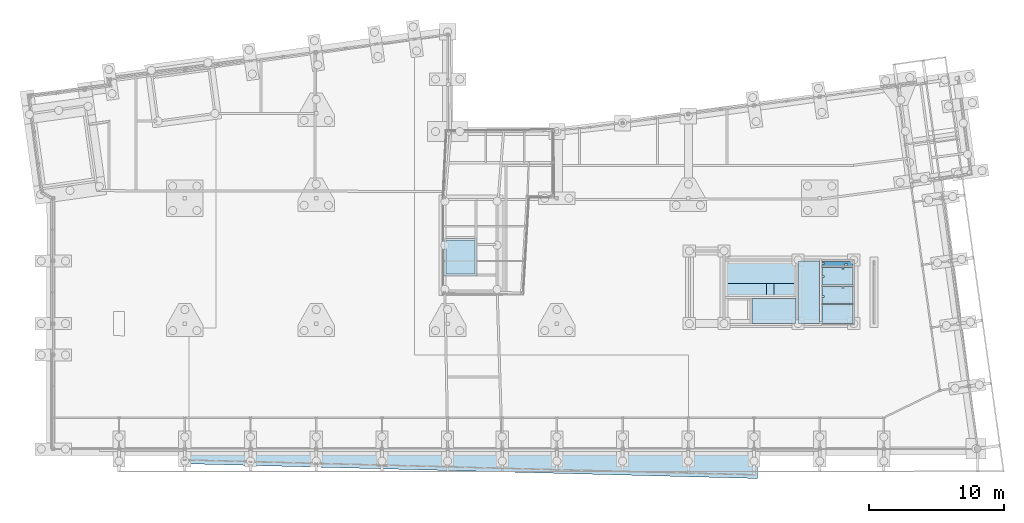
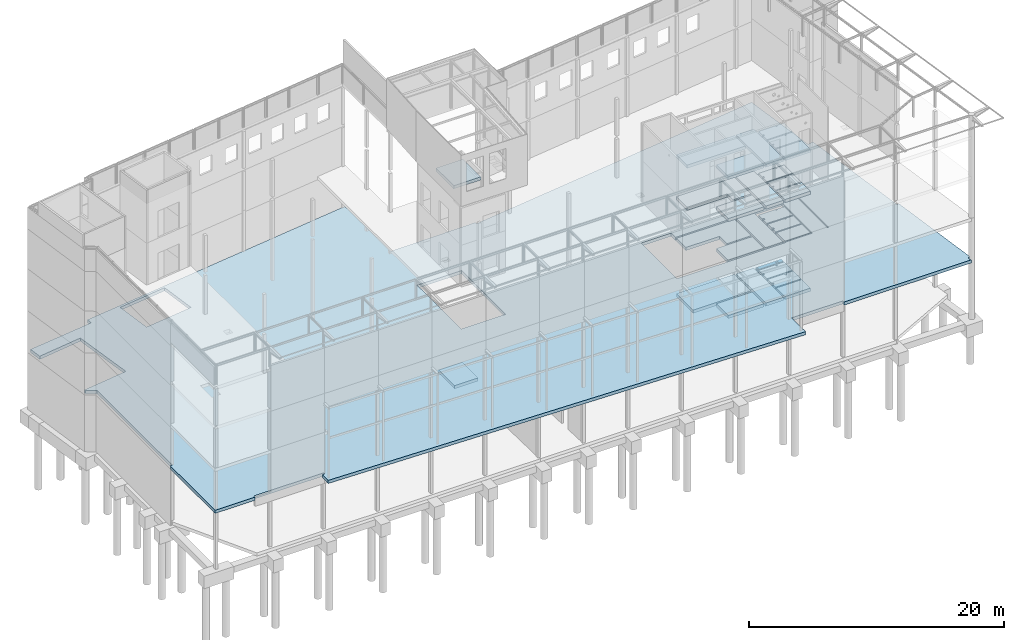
# One storey, part 67 of 82: 28 slabs.
"""IFC2X3 building model written with IfcOpenShell, lengths in millimetres."""

from ifc_helpers import new_model, si_unit, frame, frame_2d, origin_with_axes, place, context, subcontext, project, spatial, polyline, rectangle, circle, outline, extrude, boolean, material, layer, layer_set, layer_usage, type_object, element, save


model = new_model("IFC2X3")

# Units and contexts
model_context = context("Model", 3, precision=1e-05, world=origin_with_axes())
body_context = subcontext(model_context, "Body", "Model", "MODEL_VIEW")
ifc_project = project(units=[si_unit("LENGTHUNIT", "METRE", prefix="MILLI"), si_unit("AREAUNIT", "SQUARE_METRE"), si_unit("VOLUMEUNIT", "CUBIC_METRE"), si_unit("MASSUNIT", "GRAM", prefix="KILO"), si_unit("TIMEUNIT", "SECOND"), si_unit("PLANEANGLEUNIT", "RADIAN"), si_unit("SOLIDANGLEUNIT", "STERADIAN"), si_unit("THERMODYNAMICTEMPERATUREUNIT", "DEGREE_CELSIUS"), si_unit("LUMINOUSINTENSITYUNIT", "LUMEN")], contexts=[model_context])

# Site, building, storey
site_placement = place(None, origin_with_axes())
site = spatial("IfcSite", under=ifc_project, at=site_placement, Name="Undefined", CompositionType="ELEMENT")
building_placement = place(site_placement, origin_with_axes())
building = spatial("IfcBuilding", under=site, at=building_placement, Name="Undefined", CompositionType="ELEMENT")
storey_placement = place(building_placement, origin_with_axes())
storey = spatial("IfcBuildingStorey", under=building, at=storey_placement, Name="Undefined", CompositionType="ELEMENT", Elevation=0.0)

# Slabs
ifc_material = material(Name="CONCRETE/C30/37")
ifc_layer = layer(ifc_material, 300.0)
ifc_layer_set = layer_set([ifc_layer], Name="Floor: Insitu CONCRETE/C30/37")
ifc_layer_usage_1 = layer_usage(ifc_layer_set, "AXIS3", "POSITIVE", -150.0)
slab_type_1 = type_object("IfcSlabType", Name="300*2445", PredefinedType="NOTDEFINED")
slab_1_placement = place(storey_placement, frame((31418.7636301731, 12815.0686917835, 18180.0), z_axis=(0.0, -6.50000002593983e-08, -0.999999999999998), x_axis=(-1.0, 0.0, 0.0)))
element("IfcSlab", 1, at=slab_1_placement, inside=storey, type_object=slab_type_1, material=ifc_layer_usage_1, Name="DALLE", ObjectType="300*2445", PredefinedType="FLOOR", context=body_context, shape_type="SweptSolid", body=[
    extrude(outline(polyline([(5.17284206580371e-08, 4.49290382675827e-10), (2445.00000000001, 2.19552021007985e-09), (2444.99731445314, 2800.00024414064), (0.000110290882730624, 2799.99975585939), (5.17284206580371e-08, 4.49290382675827e-10)])), frame((-3.63806012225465e-12, 9.115763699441e-13, -150.0), z_axis=(0.0, 0.0, 1.0), x_axis=(1.0, 0.0, 0.0)), (0.0, 0.0, 1.0), 300.0),
])
ifc_layer_usage_2 = layer_usage(ifc_layer_set, "AXIS3", "POSITIVE", -150.0)
slab_type_2 = type_object("IfcSlabType", Name="300*1683", PredefinedType="NOTDEFINED")
slab_2_placement = place(storey_placement, frame((55096.3765565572, 13950.0000000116, 13180.0), z_axis=(0.0, 0.0, 1.0), x_axis=(-1.0, 0.0, 0.0)))
element("IfcSlab", 2, at=slab_2_placement, inside=storey, type_object=slab_type_2, material=ifc_layer_usage_2, Name="DALLE", ObjectType="300*1683", PredefinedType="FLOOR", context=body_context, shape_type="SweptSolid", body=[
    extrude(outline(polyline([(5.17284206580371e-08, 4.49290382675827e-10), (5271.37646484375, -1.20053300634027e-10), (5271.37744140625, 1682.5341796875), (2.41072120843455e-06, 1682.5341796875), (5.17284206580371e-08, 4.49290382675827e-10)])), frame((-3.63806012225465e-12, 9.115763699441e-13, -150.0), z_axis=(0.0, 0.0, 1.0), x_axis=(1.0, 0.0, 0.0)), (0.0, 0.0, 1.0), 300.0),
])
ifc_layer_usage_3 = layer_usage(ifc_layer_set, "AXIS3", "POSITIVE", -150.0)
slab_type_3 = type_object("IfcSlabType", Name="300*1374", PredefinedType="NOTDEFINED")
slab_3_placement = place(storey_placement, frame((59325.0016586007, 10699.4681967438, 13180.0), z_axis=(0.0, 0.0, 1.0), x_axis=(-1.0, 0.0, 0.0)))
element("IfcSlab", 3, at=slab_3_placement, inside=storey, type_object=slab_type_3, material=ifc_layer_usage_3, Name="DALLE", ObjectType="300*1374", PredefinedType="FLOOR", context=body_context, shape_type="SweptSolid", body=[
    extrude(outline(polyline([(5.17284206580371e-08, 4.49290382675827e-10), (2325.00170898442, -1.71530700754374e-09), (2325.00146483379, 1374.46838379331), (0.00218081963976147, 1374.46826171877), (5.17284206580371e-08, 4.49290382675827e-10)])), frame((-3.63806012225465e-12, 9.115763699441e-13, -150.0), z_axis=(0.0, 0.0, 1.0), x_axis=(1.0, 0.0, 0.0)), (0.0, 0.0, 1.0), 300.0),
])
ifc_layer_usage_4 = layer_usage(ifc_layer_set, "AXIS3", "POSITIVE", -150.0)
slab_4_placement = place(storey_placement, frame((59325.001658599, 10699.4681967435, 9155.0), z_axis=(0.0, 0.0, 1.0), x_axis=(-1.0, 0.0, 0.0)))
element("IfcSlab", 4, at=slab_4_placement, inside=storey, type_object=slab_type_3, material=ifc_layer_usage_4, Name="DALLE", ObjectType="300*1374", PredefinedType="FLOOR", context=body_context, shape_type="SweptSolid", body=[
    extrude(outline(polyline([(5.17284206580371e-08, 4.49290382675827e-10), (2325.00170898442, -1.71530700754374e-09), (2325.00146483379, 1374.46838379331), (0.00218081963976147, 1374.46826171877), (5.17284206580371e-08, 4.49290382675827e-10)])), frame((-3.63806012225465e-12, 9.115763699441e-13, -150.0), z_axis=(0.0, 0.0, 1.0), x_axis=(1.0, 0.0, 0.0)), (0.0, 0.0, 1.0), 300.0),
])
ifc_layer_usage_5 = layer_usage(ifc_layer_set, "AXIS3", "POSITIVE", -150.0)
slab_5_placement = place(storey_placement, frame((59325.0016585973, 10699.4681967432, 5150.0), z_axis=(0.0, 0.0, 1.0), x_axis=(-1.0, 0.0, 0.0)))
element("IfcSlab", 5, at=slab_5_placement, inside=storey, type_object=slab_type_3, material=ifc_layer_usage_5, Name="DALLE", ObjectType="300*1374", PredefinedType="FLOOR", context=body_context, shape_type="SweptSolid", body=[
    extrude(outline(polyline([(5.17284206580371e-08, 4.49290382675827e-10), (2325.00170898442, -1.71530700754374e-09), (2325.00146483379, 1374.46838379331), (0.00218081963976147, 1374.46826171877), (5.17284206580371e-08, 4.49290382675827e-10)])), frame((-3.63806012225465e-12, 9.115763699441e-13, -150.0), z_axis=(0.0, 0.0, 1.0), x_axis=(1.0, 0.0, 0.0)), (0.0, 0.0, 1.0), 300.0),
])
ifc_layer_usage_6 = layer_usage(ifc_layer_set, "AXIS3", "POSITIVE", -150.0)
slab_6_placement = place(storey_placement, frame((59325.0016585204, 10699.4681966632, -150.0), z_axis=(0.0, 0.0, 1.0), x_axis=(-1.0, 0.0, 0.0)))
element("IfcSlab", 6, at=slab_6_placement, inside=storey, type_object=slab_type_3, material=ifc_layer_usage_6, Name="DALLE", ObjectType="300*1374", PredefinedType="FLOOR", context=body_context, shape_type="SweptSolid", body=[
    extrude(outline(polyline([(5.17284206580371e-08, 4.49290382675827e-10), (2325.00170898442, -1.71530700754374e-09), (2325.00219726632, 1374.46826174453), (0.00271947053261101, 1374.46826171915), (5.17284206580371e-08, 4.49290382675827e-10)])), frame((-3.63806012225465e-12, 9.115763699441e-13, -150.0), z_axis=(0.0, 0.0, 1.0), x_axis=(1.0, 0.0, 0.0)), (0.0, 0.0, 1.0), 300.0),
])
ifc_layer_usage_7 = layer_usage(ifc_layer_set, "AXIS3", "POSITIVE", -150.0)
slab_type_4 = type_object("IfcSlabType", Name="300*1251", PredefinedType="NOTDEFINED")
slab_7_placement = place(storey_placement, frame((59325.001658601, 12049.9997748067, 13180.0), z_axis=(0.0, 0.0, 1.0), x_axis=(-1.0, 0.0, 0.0)))
element("IfcSlab", 7, at=slab_7_placement, inside=storey, type_object=slab_type_4, material=ifc_layer_usage_7, Name="DALLE", ObjectType="300*1251", PredefinedType="FLOOR", context=body_context, shape_type="CSG", body=[
    boolean("DIFFERENCE", boolean("DIFFERENCE", extrude(outline(polyline([(5.17284206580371e-08, 4.49290382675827e-10), (2325.00170898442, -1.71530700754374e-09), (2325.00146484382, 1250.53161623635), (0.00216770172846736, 1250.53161621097), (5.17284206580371e-08, 4.49290382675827e-10)])), frame((-3.63806012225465e-12, 9.115763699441e-13, -150.0), z_axis=(0.0, 0.0, 1.0), x_axis=(1.0, 0.0, 0.0)), (0.0, 0.0, 1.0), 300.0), extrude(rectangle(XDim=150.0, YDim=150.0, at=frame_2d((5.17284206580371e-08, 4.49290382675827e-10), x_axis=(1.0, 0.0))), frame((2250.00283816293, 739.000248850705, 160.0), z_axis=(0.0, -6.50000002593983e-08, -0.999999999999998), x_axis=(-1.0, 0.0, 0.0)), (0.0, 0.0, 1.0), 320.0)), extrude(rectangle(XDim=100.0, YDim=100.0, at=frame_2d((5.17284206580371e-08, 4.49290382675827e-10), x_axis=(1.0, 0.0))), frame((749.995518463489, 63.2879947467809, 160.0), z_axis=(0.0, -6.50000002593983e-08, -0.999999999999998), x_axis=(-1.0, 0.0, 0.0)), (0.0, 0.0, 1.0), 320.0)),
])
ifc_layer_usage_8 = layer_usage(ifc_layer_set, "AXIS3", "POSITIVE", -150.0)
slab_8_placement = place(storey_placement, frame((59325.0016585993, 12049.9997748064, 9155.0), z_axis=(0.0, 0.0, 1.0), x_axis=(-1.0, 0.0, 0.0)))
element("IfcSlab", 8, at=slab_8_placement, inside=storey, type_object=slab_type_4, material=ifc_layer_usage_8, Name="DALLE", ObjectType="300*1251", PredefinedType="FLOOR", context=body_context, shape_type="CSG", body=[
    boolean("DIFFERENCE", boolean("DIFFERENCE", extrude(outline(polyline([(5.17284206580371e-08, 4.49290382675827e-10), (2325.00170898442, -1.71530700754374e-09), (2325.00146484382, 1250.53161623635), (0.00216770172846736, 1250.53161621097), (5.17284206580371e-08, 4.49290382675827e-10)])), frame((-3.63806012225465e-12, 9.115763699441e-13, -150.0), z_axis=(0.0, 0.0, 1.0), x_axis=(1.0, 0.0, 0.0)), (0.0, 0.0, 1.0), 300.0), extrude(rectangle(XDim=150.0, YDim=150.0, at=frame_2d((5.17284206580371e-08, 4.49290382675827e-10), x_axis=(1.0, 0.0))), frame((2250.00283816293, 739.000248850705, 160.0), z_axis=(0.0, -6.50000002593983e-08, -0.999999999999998), x_axis=(-1.0, 0.0, 0.0)), (0.0, 0.0, 1.0), 320.0)), extrude(rectangle(XDim=100.0, YDim=100.0, at=frame_2d((5.17284206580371e-08, 4.49290382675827e-10), x_axis=(1.0, 0.0))), frame((749.995518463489, 63.2879947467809, 160.0), z_axis=(0.0, -6.50000002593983e-08, -0.999999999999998), x_axis=(-1.0, 0.0, 0.0)), (0.0, 0.0, 1.0), 320.0)),
])
ifc_layer_usage_9 = layer_usage(ifc_layer_set, "AXIS3", "POSITIVE", -150.0)
slab_9_placement = place(storey_placement, frame((59325.0016585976, 12049.9997748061, 5150.0), z_axis=(0.0, 0.0, 1.0), x_axis=(-1.0, 0.0, 0.0)))
element("IfcSlab", 9, at=slab_9_placement, inside=storey, type_object=slab_type_4, material=ifc_layer_usage_9, Name="DALLE", ObjectType="300*1251", PredefinedType="FLOOR", context=body_context, shape_type="CSG", body=[
    boolean("DIFFERENCE", boolean("DIFFERENCE", extrude(outline(polyline([(5.17284206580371e-08, 4.49290382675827e-10), (2325.00170898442, -1.71530700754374e-09), (2325.00146484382, 1250.53161623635), (0.00216770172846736, 1250.53161621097), (5.17284206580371e-08, 4.49290382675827e-10)])), frame((-3.63806012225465e-12, 9.115763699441e-13, -150.0), z_axis=(0.0, 0.0, 1.0), x_axis=(1.0, 0.0, 0.0)), (0.0, 0.0, 1.0), 300.0), extrude(rectangle(XDim=150.0, YDim=150.0, at=frame_2d((5.17284206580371e-08, 4.49290382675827e-10), x_axis=(1.0, 0.0))), frame((2250.00164723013, 739.000249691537, 159.999999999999), z_axis=(0.0, -6.50000002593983e-08, -0.999999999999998), x_axis=(-1.0, 0.0, 0.0)), (0.0, 0.0, 1.0), 320.0)), extrude(rectangle(XDim=100.0, YDim=100.0, at=frame_2d((5.17284206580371e-08, 4.49290382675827e-10), x_axis=(1.0, 0.0))), frame((749.995518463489, 63.2879947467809, 160.0), z_axis=(0.0, -6.50000002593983e-08, -0.999999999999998), x_axis=(-1.0, 0.0, 0.0)), (0.0, 0.0, 1.0), 320.0)),
])
ifc_layer_usage_10 = layer_usage(ifc_layer_set, "AXIS3", "POSITIVE", -150.0)
slab_10_placement = place(storey_placement, frame((59325.0016585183, 12049.9997747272, -150.0), z_axis=(0.0, 0.0, 1.0), x_axis=(-1.0, 0.0, 0.0)))
element("IfcSlab", 10, at=slab_10_placement, inside=storey, type_object=slab_type_4, material=ifc_layer_usage_10, Name="DALLE", ObjectType="300*1251", PredefinedType="FLOOR", context=body_context, shape_type="CSG", body=[
    boolean("DIFFERENCE", boolean("DIFFERENCE", extrude(outline(polyline([(5.17284206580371e-08, 4.49290382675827e-10), (2325.00170898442, -1.71530700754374e-09), (2325.00097656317, 1250.53161623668), (0.00268063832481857, 1250.5316162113), (5.17284206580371e-08, 4.49290382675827e-10)])), frame((-3.63806012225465e-12, 9.115763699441e-13, -150.0), z_axis=(0.0, 0.0, 1.0), x_axis=(1.0, 0.0, 0.0)), (0.0, 0.0, 1.0), 300.0), extrude(rectangle(XDim=150.0, YDim=150.0, at=frame_2d((5.17284206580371e-08, 4.49290382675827e-10), x_axis=(1.0, 0.0))), frame((2250.00314111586, 738.999326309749, 160.0), z_axis=(0.0, -6.50000002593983e-08, -0.999999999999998), x_axis=(-1.0, 0.0, 0.0)), (0.0, 0.0, 1.0), 320.0)), extrude(rectangle(XDim=150.0, YDim=150.0, at=frame_2d((5.17284206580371e-08, 4.49290382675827e-10), x_axis=(1.0, 0.0))), frame((749.995548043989, 74.9997654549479, 160.0), z_axis=(0.0, -6.50000002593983e-08, -0.999999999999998), x_axis=(-1.0, 0.0, 0.0)), (0.0, 0.0, 1.0), 320.0)),
])
ifc_layer_usage_11 = layer_usage(ifc_layer_set, "AXIS3", "POSITIVE", -150.0)
slab_type_5 = type_object("IfcSlabType", Name="300*1325", PredefinedType="NOTDEFINED")
slab_11_placement = place(storey_placement, frame((59325.0016586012, 13474.9999655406, 13180.0), z_axis=(0.0, 0.0, 1.0), x_axis=(-1.0, 0.0, 0.0)))
element("IfcSlab", 11, at=slab_11_placement, inside=storey, type_object=slab_type_5, material=ifc_layer_usage_11, Name="DALLE", ObjectType="300*1325", PredefinedType="FLOOR", context=body_context, shape_type="CSG", body=[
    boolean("DIFFERENCE", boolean("DIFFERENCE", extrude(outline(polyline([(5.17284206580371e-08, 4.49290382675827e-10), (2325.00170898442, -1.71530700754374e-09), (2325.00170898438, 1325.00000002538), (0.00226918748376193, 1325.00024414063), (5.17284206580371e-08, 4.49290382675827e-10)])), frame((-3.63806012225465e-12, 9.115763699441e-13, -150.0), z_axis=(0.0, 0.0, 1.0), x_axis=(1.0, 0.0, 0.0)), (0.0, 0.0, 1.0), 300.0), extrude(rectangle(XDim=150.0, YDim=150.0, at=frame_2d((5.17284206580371e-08, 4.49290382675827e-10), x_axis=(1.0, 0.0))), frame((2250.002899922, 662.506324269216, 160.0), z_axis=(0.0, -6.50000002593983e-08, -0.999999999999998), x_axis=(-1.0, 0.0, 0.0)), (0.0, 0.0, 1.0), 320.0)), extrude(rectangle(XDim=100.0, YDim=100.0, at=frame_2d((5.17284206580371e-08, 4.49290382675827e-10), x_axis=(1.0, 0.0))), frame((749.995523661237, 63.2888869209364, 160.0), z_axis=(0.0, -6.50000002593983e-08, -0.999999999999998), x_axis=(-1.0, 0.0, 0.0)), (0.0, 0.0, 1.0), 320.0)),
])
ifc_layer_usage_12 = layer_usage(ifc_layer_set, "AXIS3", "POSITIVE", -150.0)
slab_12_placement = place(storey_placement, frame((59325.0016585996, 13474.9999655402, 9155.0), z_axis=(0.0, 0.0, 1.0), x_axis=(-1.0, 0.0, 0.0)))
element("IfcSlab", 12, at=slab_12_placement, inside=storey, type_object=slab_type_5, material=ifc_layer_usage_12, Name="DALLE", ObjectType="300*1325", PredefinedType="FLOOR", context=body_context, shape_type="CSG", body=[
    boolean("DIFFERENCE", boolean("DIFFERENCE", extrude(outline(polyline([(5.17284206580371e-08, 4.49290382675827e-10), (2325.00170898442, -1.71530700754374e-09), (2325.00170898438, 1325.00000002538), (0.00226918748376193, 1325.00024414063), (5.17284206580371e-08, 4.49290382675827e-10)])), frame((-3.63806012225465e-12, 9.115763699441e-13, -150.0), z_axis=(0.0, 0.0, 1.0), x_axis=(1.0, 0.0, 0.0)), (0.0, 0.0, 1.0), 300.0), extrude(rectangle(XDim=150.0, YDim=150.0, at=frame_2d((5.17284206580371e-08, 4.49290382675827e-10), x_axis=(1.0, 0.0))), frame((2250.002899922, 662.506324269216, 160.0), z_axis=(0.0, -6.50000002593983e-08, -0.999999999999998), x_axis=(-1.0, 0.0, 0.0)), (0.0, 0.0, 1.0), 320.0)), extrude(rectangle(XDim=100.0, YDim=100.0, at=frame_2d((5.17284206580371e-08, 4.49290382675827e-10), x_axis=(1.0, 0.0))), frame((749.995523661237, 63.2888869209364, 160.0), z_axis=(0.0, -6.50000002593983e-08, -0.999999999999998), x_axis=(-1.0, 0.0, 0.0)), (0.0, 0.0, 1.0), 320.0)),
])
ifc_layer_usage_13 = layer_usage(ifc_layer_set, "AXIS3", "POSITIVE", -150.0)
slab_13_placement = place(storey_placement, frame((59325.0016585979, 13474.9999655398, 5150.0), z_axis=(0.0, 0.0, 1.0), x_axis=(-1.0, 0.0, 0.0)))
element("IfcSlab", 13, at=slab_13_placement, inside=storey, type_object=slab_type_5, material=ifc_layer_usage_13, Name="DALLE", ObjectType="300*1325", PredefinedType="FLOOR", context=body_context, shape_type="CSG", body=[
    boolean("DIFFERENCE", boolean("DIFFERENCE", extrude(outline(polyline([(5.17284206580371e-08, 4.49290382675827e-10), (2325.00170898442, -1.71530700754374e-09), (2325.00170898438, 1325.00000002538), (0.00226918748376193, 1325.00024414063), (5.17284206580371e-08, 4.49290382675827e-10)])), frame((-3.63806012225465e-12, 9.115763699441e-13, -150.0), z_axis=(0.0, 0.0, 1.0), x_axis=(1.0, 0.0, 0.0)), (0.0, 0.0, 1.0), 300.0), extrude(rectangle(XDim=150.0, YDim=150.0, at=frame_2d((5.17284206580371e-08, 4.49290382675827e-10), x_axis=(1.0, 0.0))), frame((2250.00170898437, 662.506325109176, 160.000000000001), z_axis=(0.0, -6.50000002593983e-08, -0.999999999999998), x_axis=(-1.0, 0.0, 0.0)), (0.0, 0.0, 1.0), 320.0)), extrude(rectangle(XDim=100.0, YDim=100.0, at=frame_2d((5.17284206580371e-08, 4.49290382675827e-10), x_axis=(1.0, 0.0))), frame((749.995523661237, 63.2888869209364, 160.0), z_axis=(0.0, -6.50000002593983e-08, -0.999999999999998), x_axis=(-1.0, 0.0, 0.0)), (0.0, 0.0, 1.0), 320.0)),
])
ifc_layer_usage_14 = layer_usage(ifc_layer_set, "AXIS3", "POSITIVE", -150.0)
slab_14_placement = place(storey_placement, frame((59325.001658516, 13474.9999654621, -150.0), z_axis=(0.0, 0.0, 1.0), x_axis=(-1.0, 0.0, 0.0)))
element("IfcSlab", 14, at=slab_14_placement, inside=storey, type_object=slab_type_5, material=ifc_layer_usage_14, Name="DALLE", ObjectType="300*1325", PredefinedType="FLOOR", context=body_context, shape_type="CSG", body=[
    boolean("DIFFERENCE", boolean("DIFFERENCE", extrude(outline(polyline([(5.17284206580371e-08, 4.49290382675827e-10), (2325.00170898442, -1.71530700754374e-09), (2325.00097656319, 1325.00024416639), (0.00270397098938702, 1325.00024414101), (5.17284206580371e-08, 4.49290382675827e-10)])), frame((-3.63806012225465e-12, 9.115763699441e-13, -150.0), z_axis=(0.0, 0.0, 1.0), x_axis=(1.0, 0.0, 0.0)), (0.0, 0.0, 1.0), 300.0), extrude(rectangle(XDim=150.0, YDim=150.0, at=frame_2d((5.17284206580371e-08, 4.49290382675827e-10), x_axis=(1.0, 0.0))), frame((2250.00311718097, 662.505586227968, 160.0), z_axis=(0.0, -6.50000002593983e-08, -0.999999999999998), x_axis=(-1.0, 0.0, 0.0)), (0.0, 0.0, 1.0), 320.0)), extrude(rectangle(XDim=150.0, YDim=150.0, at=frame_2d((5.17284206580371e-08, 4.49290382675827e-10), x_axis=(1.0, 0.0))), frame((749.995548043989, 74.9997654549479, 160.0), z_axis=(0.0, -6.50000002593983e-08, -0.999999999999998), x_axis=(-1.0, 0.0, 0.0)), (0.0, 0.0, 1.0), 320.0)),
])
ifc_layer_usage_15 = layer_usage(ifc_layer_set, "AXIS3", "POSITIVE", -150.0)
slab_type_6 = type_object("IfcSlabType", Name="300*1604", PredefinedType="NOTDEFINED")
slab_15_placement = place(storey_placement, frame((56850.0000000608, 13950.0000000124, 13180.0), z_axis=(0.0, 0.0, 1.0), x_axis=(-1.0, 0.0, 0.0)))
element("IfcSlab", 15, at=slab_15_placement, inside=storey, type_object=slab_type_6, material=ifc_layer_usage_15, Name="DALLE", ObjectType="300*1604", PredefinedType="FLOOR", context=body_context, shape_type="SweptSolid", body=[
    extrude(outline(polyline([(5.17284206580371e-08, 4.49290382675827e-10), (1603.62341308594, 5.79348125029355e-09), (1603.62341308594, 4650.0), (3.37531673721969e-08, 4650.0), (5.17284206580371e-08, 4.49290382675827e-10)])), frame((-3.63806012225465e-12, 9.115763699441e-13, -150.0), z_axis=(0.0, 0.0, 1.0), x_axis=(1.0, 0.0, 0.0)), (0.0, 0.0, 1.0), 300.0),
])
ifc_layer_usage_16 = layer_usage(ifc_layer_set, "AXIS3", "POSITIVE", -150.0)
slab_16_placement = place(storey_placement, frame((56850.0000000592, 13950.000000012, 9155.0), z_axis=(0.0, 0.0, 1.0), x_axis=(-1.0, 0.0, 0.0)))
element("IfcSlab", 16, at=slab_16_placement, inside=storey, type_object=slab_type_6, material=ifc_layer_usage_16, Name="DALLE", ObjectType="300*1604", PredefinedType="FLOOR", context=body_context, shape_type="SweptSolid", body=[
    extrude(outline(polyline([(5.17284206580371e-08, 4.49290382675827e-10), (1603.62341308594, 5.79348125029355e-09), (1603.62341308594, 4650.0), (3.37531673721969e-08, 4650.0), (5.17284206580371e-08, 4.49290382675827e-10)])), frame((-3.63806012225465e-12, 9.115763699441e-13, -150.0), z_axis=(0.0, 0.0, 1.0), x_axis=(1.0, 0.0, 0.0)), (0.0, 0.0, 1.0), 300.0),
])
ifc_layer_usage_17 = layer_usage(ifc_layer_set, "AXIS3", "POSITIVE", -150.0)
slab_17_placement = place(storey_placement, frame((56850.0000000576, 13950.0000000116, 5150.0), z_axis=(0.0, 0.0, 1.0), x_axis=(-1.0, 0.0, 0.0)))
element("IfcSlab", 17, at=slab_17_placement, inside=storey, type_object=slab_type_6, material=ifc_layer_usage_17, Name="DALLE", ObjectType="300*1604", PredefinedType="FLOOR", context=body_context, shape_type="SweptSolid", body=[
    extrude(outline(polyline([(5.17284206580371e-08, 4.49290382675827e-10), (1603.62341308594, 5.79348125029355e-09), (1603.62341308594, 4650.0), (3.37531673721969e-08, 4650.0), (5.17284206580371e-08, 4.49290382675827e-10)])), frame((-3.63806012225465e-12, 9.115763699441e-13, -150.0), z_axis=(0.0, 0.0, 1.0), x_axis=(1.0, 0.0, 0.0)), (0.0, 0.0, 1.0), 300.0),
])
ifc_layer_usage_18 = layer_usage(ifc_layer_set, "AXIS3", "POSITIVE", -150.0)
slab_18_placement = place(storey_placement, frame((55246.3765564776, 13949.9999999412, -150.0), z_axis=(0.0, 0.0, 1.0), x_axis=(-2.77555756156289e-17, -1.0, 0.0)))
element("IfcSlab", 18, at=slab_18_placement, inside=storey, type_object=slab_type_6, material=ifc_layer_usage_18, Name="DALLE", ObjectType="300*1604", PredefinedType="FLOOR", context=body_context, shape_type="SweptSolid", body=[
    extrude(outline(polyline([(5.17284206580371e-08, 4.49290382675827e-10), (4649.99951171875, 0.0), (4649.99951171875, 1603.62341308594), (0.0, 1603.62341308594), (5.17284206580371e-08, 4.49290382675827e-10)])), frame((-3.63806012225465e-12, 9.115763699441e-13, -150.0), z_axis=(0.0, 0.0, 1.0), x_axis=(1.0, 0.0, 0.0)), (0.0, 0.0, 1.0), 300.0),
])
ifc_layer_usage_19 = layer_usage(ifc_layer_set, "AXIS3", "POSITIVE", -150.0)
slab_type_7 = type_object("IfcSlabType", Name="300*1875", PredefinedType="NOTDEFINED")
slab_19_placement = place(storey_placement, frame((55096.3765565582, 11175.000000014, 13180.0), z_axis=(0.0, 0.0, 1.0), x_axis=(-1.0, 0.0, 0.0)))
element("IfcSlab", 19, at=slab_19_placement, inside=storey, type_object=slab_type_7, material=ifc_layer_usage_19, Name="DALLE", ObjectType="300*1875", PredefinedType="FLOOR", context=body_context, shape_type="SweptSolid", body=[
    extrude(outline(polyline([(5.17284206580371e-08, 4.49290382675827e-10), (3255.685546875, 1.17706804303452e-08), (3255.685546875, 1875.0), (1.36205926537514e-08, 1875.0), (5.17284206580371e-08, 4.49290382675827e-10)])), frame((-3.63806012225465e-12, 9.115763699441e-13, -150.0), z_axis=(0.0, 0.0, 1.0), x_axis=(1.0, 0.0, 0.0)), (0.0, 0.0, 1.0), 300.0),
])
ifc_layer_usage_20 = layer_usage(ifc_layer_set, "AXIS3", "POSITIVE", -150.0)
slab_20_placement = place(storey_placement, frame((55096.3765565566, 11175.0000000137, 9155.0), z_axis=(0.0, 0.0, 1.0), x_axis=(-1.0, 0.0, 0.0)))
element("IfcSlab", 20, at=slab_20_placement, inside=storey, type_object=slab_type_7, material=ifc_layer_usage_20, Name="DALLE", ObjectType="300*1875", PredefinedType="FLOOR", context=body_context, shape_type="SweptSolid", body=[
    extrude(outline(polyline([(5.17284206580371e-08, 4.49290382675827e-10), (3255.685546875, 1.17706804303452e-08), (3255.685546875, 1875.0), (1.36205926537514e-08, 1875.0), (5.17284206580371e-08, 4.49290382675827e-10)])), frame((-3.63806012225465e-12, 9.115763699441e-13, -150.0), z_axis=(0.0, 0.0, 1.0), x_axis=(1.0, 0.0, 0.0)), (0.0, 0.0, 1.0), 300.0),
])
ifc_layer_usage_21 = layer_usage(ifc_layer_set, "AXIS3", "POSITIVE", -150.0)
slab_21_placement = place(storey_placement, frame((55096.3765565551, 11175.0000000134, 5150.0), z_axis=(0.0, 0.0, 1.0), x_axis=(-1.0, 0.0, 0.0)))
element("IfcSlab", 21, at=slab_21_placement, inside=storey, type_object=slab_type_7, material=ifc_layer_usage_21, Name="DALLE", ObjectType="300*1875", PredefinedType="FLOOR", context=body_context, shape_type="SweptSolid", body=[
    extrude(outline(polyline([(5.17284206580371e-08, 4.49290382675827e-10), (3255.685546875, 1.17706804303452e-08), (3255.685546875, 1875.0), (1.36205926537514e-08, 1875.0), (5.17284206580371e-08, 4.49290382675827e-10)])), frame((-3.63806012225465e-12, 9.115763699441e-13, -150.0), z_axis=(0.0, 0.0, 1.0), x_axis=(1.0, 0.0, 0.0)), (0.0, 0.0, 1.0), 300.0),
])
ifc_layer_usage_22 = layer_usage(ifc_layer_set, "AXIS3", "POSITIVE", -150.0)
slab_22_placement = place(storey_placement, frame((55096.3750916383, 11175.0003469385, -150.0), z_axis=(0.0, 0.0, 1.0), x_axis=(-1.0, 0.0, 0.0)))
element("IfcSlab", 22, at=slab_22_placement, inside=storey, type_object=slab_type_7, material=ifc_layer_usage_22, Name="DALLE", ObjectType="300*1875", PredefinedType="FLOOR", context=body_context, shape_type="SweptSolid", body=[
    extrude(outline(polyline([(5.17284206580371e-08, 4.49290382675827e-10), (3255.68579101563, 0.0), (3255.68408203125, 1875.00036621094), (-0.00317010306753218, 1875.0009765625), (5.17284206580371e-08, 4.49290382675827e-10)])), frame((-3.63806012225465e-12, 9.115763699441e-13, -150.0), z_axis=(0.0, 0.0, 1.0), x_axis=(1.0, 0.0, 0.0)), (0.0, 0.0, 1.0), 300.0),
])
ifc_layer_usage_23 = layer_usage(ifc_layer_set, "AXIS3", "POSITIVE", -150.0)
slab_type_8 = type_object("IfcSlabType", Name="300*2625", PredefinedType="NOTDEFINED")
slab_23_placement = place(storey_placement, frame((55096.3765565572, 13950.0000000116, 9155.0), z_axis=(0.0, 0.0, 1.0), x_axis=(-1.0, 0.0, 0.0)))
element("IfcSlab", 23, at=slab_23_placement, inside=storey, type_object=slab_type_8, material=ifc_layer_usage_23, Name="DALLE", ObjectType="300*2625", PredefinedType="FLOOR", context=body_context, shape_type="SweptSolid", body=[
    extrude(outline(polyline([(5.17284206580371e-08, 4.49290382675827e-10), (5271.37646484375, -1.20053300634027e-10), (5271.37744140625, 1682.5341796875), (1638.94995117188, 1682.5341796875), (1638.94897460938, 2625.0), (4.77230059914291e-08, 2625.0), (5.17284206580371e-08, 4.49290382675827e-10)])), frame((-3.63806012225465e-12, 9.115763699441e-13, -150.0), z_axis=(0.0, 0.0, 1.0), x_axis=(1.0, 0.0, 0.0)), (0.0, 0.0, 1.0), 300.0),
])
ifc_layer_usage_24 = layer_usage(ifc_layer_set, "AXIS3", "POSITIVE", -150.0)
slab_24_placement = place(storey_placement, frame((55096.3765565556, 13950.0000000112, 5150.0), z_axis=(0.0, 0.0, 1.0), x_axis=(-1.0, 0.0, 0.0)))
element("IfcSlab", 24, at=slab_24_placement, inside=storey, type_object=slab_type_8, material=ifc_layer_usage_24, Name="DALLE", ObjectType="300*2625", PredefinedType="FLOOR", context=body_context, shape_type="SweptSolid", body=[
    extrude(outline(polyline([(5.17284206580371e-08, 4.49290382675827e-10), (5271.37646484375, -1.20053300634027e-10), (5271.37646484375, 1463.88732910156), (2201.18310546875, 1463.88732910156), (2201.18310546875, 2625.0), (4.77230059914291e-08, 2625.0), (5.17284206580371e-08, 4.49290382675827e-10)])), frame((-3.63806012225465e-12, 9.115763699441e-13, -150.0), z_axis=(0.0, 0.0, 1.0), x_axis=(1.0, 0.0, 0.0)), (0.0, 0.0, 1.0), 300.0),
])
ifc_layer_usage_25 = layer_usage(ifc_layer_set, "AXIS3", "POSITIVE", -150.0)
slab_25_placement = place(storey_placement, frame((55096.3765564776, 13949.9999999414, -150.0), z_axis=(0.0, 0.0, 1.0), x_axis=(-1.0, 0.0, 0.0)))
element("IfcSlab", 25, at=slab_25_placement, inside=storey, type_object=slab_type_8, material=ifc_layer_usage_25, Name="DALLE", ObjectType="300*2625", PredefinedType="FLOOR", context=body_context, shape_type="SweptSolid", body=[
    extrude(outline(polyline([(5.17284206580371e-08, 4.49290382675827e-10), (5271.37695312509, 9.00399754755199e-09), (5271.37744142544, 2624.99926756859), (0.000207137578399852, 2624.99926757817), (5.17284206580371e-08, 4.49290382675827e-10)])), frame((-3.63806012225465e-12, 9.115763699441e-13, -150.0), z_axis=(0.0, 0.0, 1.0), x_axis=(1.0, 0.0, 0.0)), (0.0, 0.0, 1.0), 300.0),
])
ifc_layer_usage_26 = layer_usage(ifc_layer_set, "AXIS3", "POSITIVE", -150.0)
slab_type_9 = type_object("IfcSlabType", Name="300*35838", PredefinedType="NOTDEFINED")
slab_26_placement = place(storey_placement, frame((29449.7337977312, 30765.4316610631, 5149.99999993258), z_axis=(0.0, 0.0, 1.0), x_axis=(-0.99134656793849, -0.131270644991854, 0.0)))
element("IfcSlab", 26, at=slab_26_placement, inside=storey, type_object=slab_type_9, material=ifc_layer_usage_26, Name="DALLE", ObjectType="300*35838", PredefinedType="FLOOR", context=body_context, shape_type="CSG", body=[
    boolean("DIFFERENCE", boolean("DIFFERENCE", boolean("DIFFERENCE", boolean("DIFFERENCE", boolean("DIFFERENCE", extrude(outline(polyline([(5.17284206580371e-08, 4.49290382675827e-10), (25499.9277346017, 2.85181158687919e-08), (25499.4316408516, 499.781005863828), (31514.4550784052, 481.938262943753), (31513.2636721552, 1679.40100099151), (27468.7792971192, 1640.03283692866), (27412.3144533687, 7432.58691412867), (31507.5078127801, 7465.51464850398), (31507.3828127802, 7591.29345709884), (30800.9785158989, 8148.84619147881), (32350.1113284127, 19847.7500001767), (32528.5546877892, 19824.1230470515), (33452.4140627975, 26801.0214846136), (29859.9882815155, 27276.7187502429), (29836.3593752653, 27098.2753908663), (23569.8417970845, 27928.0683596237), (23593.4707033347, 28106.5117190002), (23790.0742189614, 28080.47656275), (23907.4902345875, 28967.1875002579), (-18251.6484376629, 35658.9804690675), (-18537.0410157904, 33503.7304690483), (-23122.5800783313, 34110.9335940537), (-23098.949218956, 34289.3750003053), (-34749.4765628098, 35832.105469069), (-34739.9257815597, 26227.3652346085), (-34559.9257815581, 26227.5429689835), (-34550.269531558, 16514.431640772), (-34540.2500003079, 16514.441406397), (-34538.5742190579, 15412.6621095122), (-34189.8867190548, 15415.8691407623), (-34189.8984378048, 15427.0537110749), (-34039.8984378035, 15427.2236329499), (-34031.6953128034, 8168.43310554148), (-6753.45361334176, 8180.97802741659), (-6764.24365240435, 8000.97314460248), (852.86425781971, 7080.97070318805), (5.17284206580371e-08, 4.49290382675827e-10)])), frame((-3.63806012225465e-12, 9.115763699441e-13, -150.0), z_axis=(0.0, 0.0, 1.0), x_axis=(1.0, 0.0, 0.0)), (0.0, 0.0, 1.0), 300.0), extrude(circle(Radius=250.0, at=frame_2d((5.17284206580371e-08, 4.49290382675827e-10), x_axis=(1.0, 0.0))), frame((-34738.380409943, 35611.3369018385, 3875.00000006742), z_axis=(0.0, -6.50000002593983e-08, -0.999999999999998), x_axis=(0.99134656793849, -0.131270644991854, 0.0)), (0.0, 0.0, 1.0), 9575.0)), extrude(outline(polyline([(5.17284206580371e-08, 4.49290382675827e-10), (4700.00000000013, 0.0), (4700.0, 100.0), (0.0, 100.0), (5.17284206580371e-08, 4.49290382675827e-10)])), frame((-28908.8670747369, 20765.019304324, -252.499999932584), z_axis=(0.0, 0.0, 1.0), x_axis=(0.131270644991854, 0.99134656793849, 0.0)), (0.0, 0.0, 1.0), 405.0)), extrude(outline(polyline([(5.17284206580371e-08, 4.49290382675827e-10), (5625.00048828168, -2.42507667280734e-08), (5624.99902343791, 9900.00000000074), (5549.99902341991, 9899.99999998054), (5549.9990234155, 12325.0019531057), (749.998046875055, 12325.0009765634), (749.997985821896, 9899.99902343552), (674.999145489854, 9899.9990234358), (675.000732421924, 2724.99853515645), (-0.000428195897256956, 2724.99853515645), (5.17284206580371e-08, 4.49290382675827e-10)])), frame((-15398.4500508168, 18169.0271085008, -252.499999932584), z_axis=(0.0, 0.0, 1.0), x_axis=(0.131270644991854, 0.99134656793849, 0.0)), (0.0, 0.0, 1.0), 405.0)), extrude(outline(polyline([(5.17284206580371e-08, 4.49290382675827e-10), (6920.14599609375, -8.64383764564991e-09), (6920.14599609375, 4024.97192382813), (-2.88779119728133e-06, 4024.97192382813), (5.17284206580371e-08, 4.49290382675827e-10)])), frame((2073.40582844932, 12032.3061971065, -252.500000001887), z_axis=(0.0, 0.0, 1.0), x_axis=(0.131270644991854, 0.99134656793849, 0.0)), (0.0, 0.0, 1.0), 405.0)), extrude(outline(polyline([(5.17284206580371e-08, 4.49290382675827e-10), (4400.00000000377, -1.34241417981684e-09), (4399.99902344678, 3399.99951169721), (-0.00100261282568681, 3399.9995116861), (5.17284206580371e-08, 4.49290382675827e-10)])), frame((22420.4386941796, 212.404399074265, 152.500000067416), z_axis=(0.0, -6.50000002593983e-08, -0.999999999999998), x_axis=(-0.999999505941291, -0.000994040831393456, 0.0)), (0.0, 0.0, 1.0), 405.0)),
])
ifc_layer_usage_27 = layer_usage(ifc_layer_set, "AXIS3", "POSITIVE", -150.0)
slab_type_10 = type_object("IfcSlabType", Name="300*350", PredefinedType="NOTDEFINED")
slab_27_placement = place(storey_placement, frame((59325.0016585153, 13925.0007284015, -150.0), z_axis=(0.0, 0.0, 1.0), x_axis=(-1.0, 0.0, 0.0)))
element("IfcSlab", 27, at=slab_27_placement, inside=storey, type_object=slab_type_10, material=ifc_layer_usage_27, Name="DALLE", ObjectType="300*350", PredefinedType="FLOOR", context=body_context, shape_type="CSG", body=[
    boolean("DIFFERENCE", boolean("DIFFERENCE", extrude(outline(polyline([(5.17284206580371e-08, 4.49290382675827e-10), (2325.00170898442, -1.71530700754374e-09), (2325.00073242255, 350.000762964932), (0.00239848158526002, 350.000762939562), (5.17284206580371e-08, 4.49290382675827e-10)])), frame((-3.63806012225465e-12, 9.115763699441e-13, -150.0), z_axis=(0.0, 0.0, 1.0), x_axis=(1.0, 0.0, 0.0)), (0.0, 0.0, 1.0), 300.0), extrude(rectangle(XDim=200.0, YDim=200.0, at=frame_2d((5.17284206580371e-08, 4.49290382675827e-10), x_axis=(1.0, 0.0))), frame((500.110043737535, 250.0008315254, 160.0), z_axis=(0.0, -6.50000002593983e-08, -0.999999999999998), x_axis=(-1.0, 0.0, 0.0)), (0.0, 0.0, 1.0), 320.0)), extrude(rectangle(XDim=150.0, YDim=150.0, at=frame_2d((5.17284206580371e-08, 4.49290382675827e-10), x_axis=(1.0, 0.0))), frame((2250.00296115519, 153.999993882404, 160.0), z_axis=(0.0, -6.50000002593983e-08, -0.999999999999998), x_axis=(-1.0, 0.0, 0.0)), (0.0, 0.0, 1.0), 320.0)),
])
ifc_layer_usage_28 = layer_usage(ifc_layer_set, "AXIS3", "POSITIVE", -150.0)
slab_type_11 = type_object("IfcSlabType", Name="300*2145", PredefinedType="NOTDEFINED")
slab_28_placement = place(storey_placement, frame((29123.7636301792, 12965.0686917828, -1149.99980926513), z_axis=(0.0, 0.0, 1.0), x_axis=(1.0, 0.0, 0.0)))
element("IfcSlab", 28, at=slab_28_placement, inside=storey, type_object=slab_type_11, material=ifc_layer_usage_28, Name="DALLE", ObjectType="300*2145", PredefinedType="FLOOR", context=body_context, shape_type="SweptSolid", body=[
    extrude(outline(polyline([(5.17284206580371e-08, 4.49290382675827e-10), (2145.00000003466, 0.0), (2145.0, 2500.0), (0.0, 2500.0), (5.17284206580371e-08, 4.49290382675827e-10)])), frame((-3.63806012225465e-12, 9.115763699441e-13, -150.0), z_axis=(0.0, 0.0, 1.0), x_axis=(1.0, 0.0, 0.0)), (0.0, 0.0, 1.0), 300.0),
])

save(model, "model.ifc")
